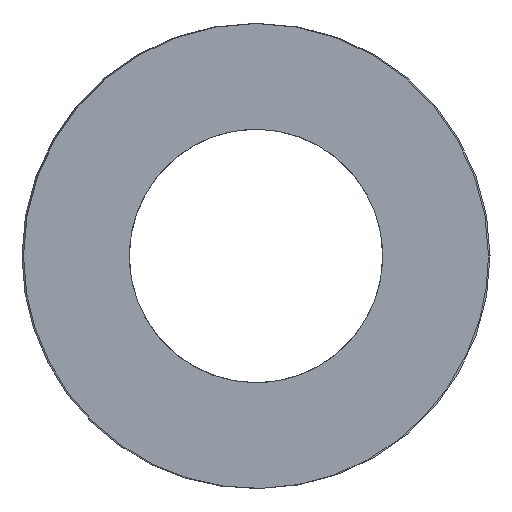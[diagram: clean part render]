
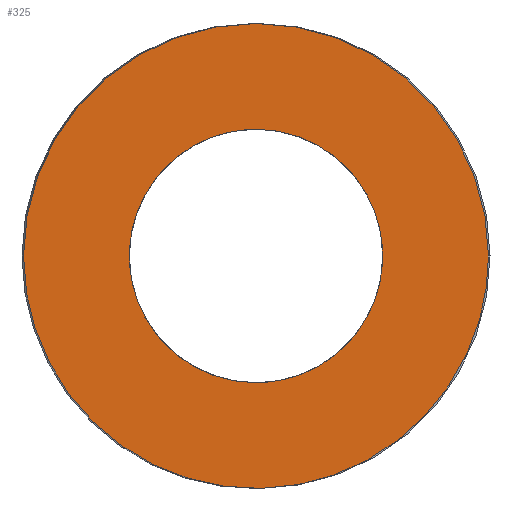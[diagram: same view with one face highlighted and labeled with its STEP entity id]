
A CAD part, left-side view. The second image highlights one B-rep face of the part: STEP entity #325.
In plain terms, the highlighted planar face has unit normal (-1, 0, 0).
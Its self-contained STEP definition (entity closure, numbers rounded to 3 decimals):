
#63=CARTESIAN_POINT('Vertex',(0.,24.4,0.)) ;
#89=CARTESIAN_POINT('Vertex',(0.,-24.4,0.)) ;
#93=CARTESIAN_POINT('Control Point',(0.,24.4,0.)) ;
#94=CARTESIAN_POINT('Control Point',(0.,24.4,-3.833)) ;
#95=CARTESIAN_POINT('Control Point',(0.,23.647,-7.665)) ;
#96=CARTESIAN_POINT('Control Point',(0.,22.142,-11.301)) ;
#97=CARTESIAN_POINT('Control Point',(0.,17.786,-17.786)) ;
#98=CARTESIAN_POINT('Control Point',(0.,11.301,-22.142)) ;
#99=CARTESIAN_POINT('Control Point',(0.,7.665,-23.647)) ;
#100=CARTESIAN_POINT('Control Point',(0.,0.,-25.153)) ;
#101=CARTESIAN_POINT('Control Point',(0.,-7.665,-23.647)) ;
#102=CARTESIAN_POINT('Control Point',(0.,-11.301,-22.142)) ;
#103=CARTESIAN_POINT('Control Point',(0.,-17.786,-17.786)) ;
#104=CARTESIAN_POINT('Control Point',(0.,-22.142,-11.301)) ;
#105=CARTESIAN_POINT('Control Point',(0.,-23.647,-7.665)) ;
#106=CARTESIAN_POINT('Control Point',(0.,-24.4,-3.833)) ;
#107=CARTESIAN_POINT('Control Point',(0.,-24.4,0.)) ;
#121=CARTESIAN_POINT('Axis2P3D Location',(0.,0.,0.)) ;
#256=CARTESIAN_POINT('Axis2P3D Location',(0.,12.2,0.)) ;
#266=CARTESIAN_POINT('Control Point',(0.,0.,-13.3)) ;
#267=CARTESIAN_POINT('Control Point',(0.,1.251,-13.3)) ;
#268=CARTESIAN_POINT('Control Point',(0.,2.501,-13.153)) ;
#269=CARTESIAN_POINT('Control Point',(0.,3.729,-12.859)) ;
#270=CARTESIAN_POINT('Control Point',(0.,6.092,-11.988)) ;
#271=CARTESIAN_POINT('Control Point',(0.,8.189,-10.593)) ;
#272=CARTESIAN_POINT('Control Point',(0.,9.15,-9.774)) ;
#273=CARTESIAN_POINT('Control Point',(0.,10.862,-7.927)) ;
#274=CARTESIAN_POINT('Control Point',(0.,12.099,-5.734)) ;
#275=CARTESIAN_POINT('Control Point',(0.,12.585,-4.569)) ;
#276=CARTESIAN_POINT('Control Point',(0.,13.275,-2.146)) ;
#277=CARTESIAN_POINT('Control Point',(0.,13.384,0.37)) ;
#278=CARTESIAN_POINT('Control Point',(0.,13.289,1.628)) ;
#279=CARTESIAN_POINT('Control Point',(0.,12.807,4.1)) ;
#280=CARTESIAN_POINT('Control Point',(0.,11.764,6.393)) ;
#281=CARTESIAN_POINT('Control Point',(0.,11.11,7.472)) ;
#282=CARTESIAN_POINT('Control Point',(0.,9.56,9.457)) ;
#283=CARTESIAN_POINT('Control Point',(0.,7.591,11.029)) ;
#284=CARTESIAN_POINT('Control Point',(0.,6.519,11.694)) ;
#285=CARTESIAN_POINT('Control Point',(0.,4.601,12.592)) ;
#286=CARTESIAN_POINT('Control Point',(0.,2.551,13.095)) ;
#287=CARTESIAN_POINT('Control Point',(0.,1.706,13.232)) ;
#288=CARTESIAN_POINT('Control Point',(0.,0.853,13.3)) ;
#289=CARTESIAN_POINT('Control Point',(0.,0.,13.3)) ;
#290=CARTESIAN_POINT('Vertex',(0.,0.,-13.3)) ;
#292=CARTESIAN_POINT('Vertex',(0.,0.,13.3)) ;
#296=CARTESIAN_POINT('Control Point',(0.,0.,13.3)) ;
#297=CARTESIAN_POINT('Control Point',(0.,-1.251,13.3)) ;
#298=CARTESIAN_POINT('Control Point',(0.,-2.501,13.153)) ;
#299=CARTESIAN_POINT('Control Point',(0.,-3.729,12.859)) ;
#300=CARTESIAN_POINT('Control Point',(0.,-6.092,11.988)) ;
#301=CARTESIAN_POINT('Control Point',(0.,-8.189,10.593)) ;
#302=CARTESIAN_POINT('Control Point',(0.,-9.15,9.774)) ;
#303=CARTESIAN_POINT('Control Point',(0.,-10.862,7.927)) ;
#304=CARTESIAN_POINT('Control Point',(0.,-12.099,5.734)) ;
#305=CARTESIAN_POINT('Control Point',(0.,-12.585,4.569)) ;
#306=CARTESIAN_POINT('Control Point',(0.,-13.275,2.146)) ;
#307=CARTESIAN_POINT('Control Point',(0.,-13.384,-0.37)) ;
#308=CARTESIAN_POINT('Control Point',(0.,-13.289,-1.628)) ;
#309=CARTESIAN_POINT('Control Point',(0.,-12.807,-4.1)) ;
#310=CARTESIAN_POINT('Control Point',(0.,-11.764,-6.393)) ;
#311=CARTESIAN_POINT('Control Point',(0.,-11.11,-7.472)) ;
#312=CARTESIAN_POINT('Control Point',(0.,-9.56,-9.457)) ;
#313=CARTESIAN_POINT('Control Point',(0.,-7.591,-11.029)) ;
#314=CARTESIAN_POINT('Control Point',(0.,-6.519,-11.694)) ;
#315=CARTESIAN_POINT('Control Point',(0.,-4.601,-12.592)) ;
#316=CARTESIAN_POINT('Control Point',(0.,-2.551,-13.095)) ;
#317=CARTESIAN_POINT('Control Point',(0.,-1.706,-13.232)) ;
#318=CARTESIAN_POINT('Control Point',(0.,-0.853,-13.3)) ;
#319=CARTESIAN_POINT('Control Point',(0.,0.,-13.3)) ;
#122=DIRECTION('Axis2P3D Direction',(1.,-0.,0.)) ;
#257=DIRECTION('Axis2P3D Direction',(-1.,0.,0.)) ;
#258=DIRECTION('Axis2P3D XDirection',(0.,1.,0.)) ;
#123=AXIS2_PLACEMENT_3D('Circle Axis2P3D',#121,#122,$) ;
#259=AXIS2_PLACEMENT_3D('Plane Axis2P3D',#256,#257,#258) ;
#262=ORIENTED_EDGE('',*,*,#108,.T.) ;
#263=ORIENTED_EDGE('',*,*,#125,.T.) ;
#322=ORIENTED_EDGE('',*,*,#294,.T.) ;
#323=ORIENTED_EDGE('',*,*,#320,.T.) ;
#324=FACE_BOUND('',#321,.T.) ;
#325=ADVANCED_FACE('392-B50-178',(#264,#324),#260,.T.) ;
#92=B_SPLINE_CURVE_WITH_KNOTS('',5,(#93,#94,#95,#96,#97,#98,#99,#100,#101,#102,#103,#104,#105,#106,#107),.UNSPECIFIED.,.F.,.U.,(6,3,3,3,6),(-38.327,-19.164,0.,19.164,38.327),.UNSPECIFIED.) ;
#265=B_SPLINE_CURVE_WITH_KNOTS('',5,(#266,#267,#268,#269,#270,#271,#272,#273,#274,#275,#276,#277,#278,#279,#280,#281,#282,#283,#284,#285,#286,#287,#288,#289),.UNSPECIFIED.,.F.,.U.,(6,3,3,3,3,3,3,6),(0.,8.843,17.686,26.53,35.373,44.216,53.059,59.09),.UNSPECIFIED.) ;
#295=B_SPLINE_CURVE_WITH_KNOTS('',5,(#296,#297,#298,#299,#300,#301,#302,#303,#304,#305,#306,#307,#308,#309,#310,#311,#312,#313,#314,#315,#316,#317,#318,#319),.UNSPECIFIED.,.F.,.U.,(6,3,3,3,3,3,3,6),(0.,8.843,17.686,26.53,35.373,44.216,53.059,59.09),.UNSPECIFIED.) ;
#124=CIRCLE('generated circle',#123,24.4) ;
#108=EDGE_CURVE('',#64,#90,#92,.T.) ;
#125=EDGE_CURVE('',#90,#64,#124,.F.) ;
#294=EDGE_CURVE('',#291,#293,#265,.T.) ;
#320=EDGE_CURVE('',#293,#291,#295,.T.) ;
#261=EDGE_LOOP('',(#262,#263)) ;
#321=EDGE_LOOP('',(#322,#323)) ;
#264=FACE_OUTER_BOUND('',#261,.T.) ;
#260=PLANE('Plane',#259) ;
#64=VERTEX_POINT('',#63) ;
#90=VERTEX_POINT('',#89) ;
#291=VERTEX_POINT('',#290) ;
#293=VERTEX_POINT('',#292) ;
